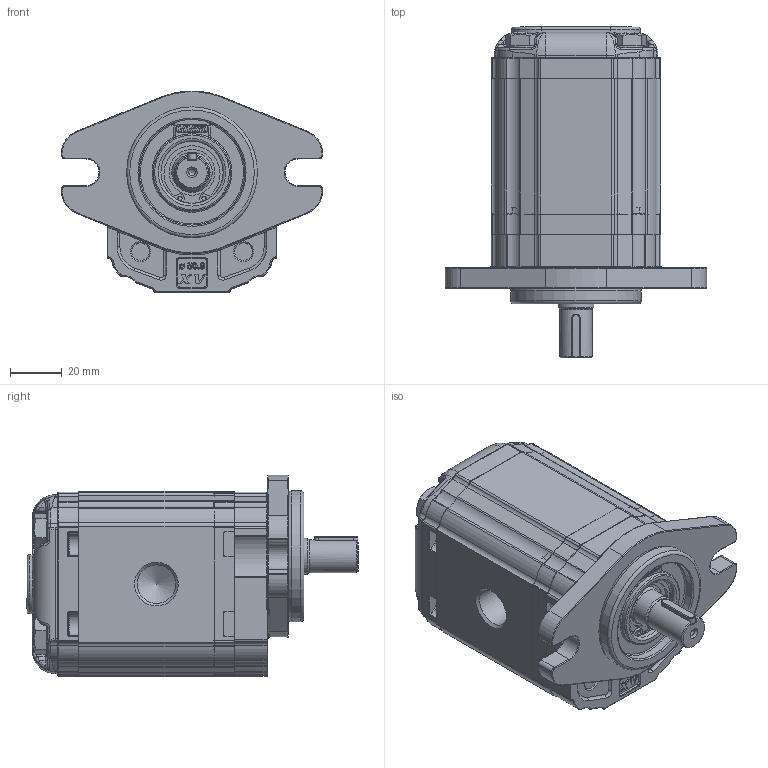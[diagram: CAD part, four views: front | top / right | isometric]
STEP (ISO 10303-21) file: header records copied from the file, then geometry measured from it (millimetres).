
FILE_DESCRIPTION( ( 'Unknown' ), '1' );
FILE_NAME( 'P:/montaggio_easy/output/STP/X1P3162BBBA.stp', 'Unknown', ( 'Unknown' ), ( 'Unknown' ), 'PSStep 14.0', 'Unknown', ' ' );
FILE_SCHEMA( ( 'AUTOMOTIVE_DESIGN { 1 0 10303 214 1 1 1 1 }' ) );
Length unit declared in the file: millimetre
Products named in the file (5): Assem1; X1P62; 1B; X1BBH60,5; XP168-A
Bounding box: 101.55 x 128.9 x 78.31 mm (x, y, z)
Volume: 805263 mm3; surface area: 147792.6 mm2
Topology: 8 solids, 14 shells, 3756 faces, 9546 edges, 6070 vertices
Faces by surface type: plane 1708, cylinder 1038, torus 394, extrusion 334, bspline 220, cone 54, sphere 8
Full cylindrical faces by diameter (mm): 1.678 x4, 2.5 x2, 3 x10, 6.8 x4, 8 x16, 8.5 x4, 9 x12, 10.5 x4, 12 x8, 12.7 x2, 13.955 x2, 14 x4, 14.923 x2, 14.95 x4, 17.115 x2, 17.833 x2, 20 x2, 22 x2, 24 x4, 24.2 x2, 25.5 x2, 30 x2, 41 x2, 50.8 x2
Entity records: 77724 total; most frequent: CARTESIAN_POINT 18018, ORIENTED_EDGE 9224, DIRECTION 9133, EDGE_CURVE 4612, AXIS2_PLACEMENT_3D 3168, VERTEX_POINT 2989, VECTOR 2797, LINE 2630
